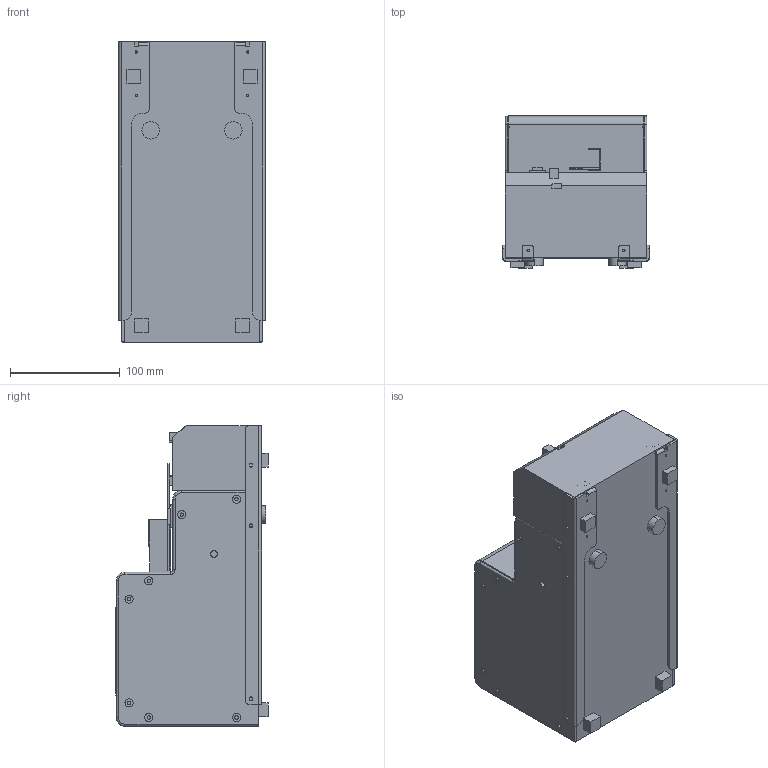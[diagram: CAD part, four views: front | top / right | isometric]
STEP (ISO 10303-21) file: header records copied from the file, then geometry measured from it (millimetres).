
FILE_DESCRIPTION (( 'STEP AP203' ), '1' );
FILE_NAME ('HS-RB.STEP', '2025-10-30T08:06:28', ( '' ), ( '' ), 'SwSTEP 2.0', 'SolidWorks 2021', '' );
FILE_SCHEMA (( 'CONFIG_CONTROL_DESIGN' ));
Length unit declared in the file: millimetre
Products named in the file (1): HS-RB
Bounding box: 133.4 x 138.8 x 274 mm (x, y, z)
Volume: 3720453.2 mm3; surface area: 302138.1 mm2
Topology: 10 solids, 10 shells, 755 faces, 1944 edges, 1275 vertices
Faces by surface type: plane 436, cylinder 273, bspline 28, cone 8, torus 8, sphere 2
Entity records: 24523 total; most frequent: CARTESIAN_POINT 5609, DIRECTION 3900, ORIENTED_EDGE 3888, EDGE_CURVE 1944, LINE 1312, VECTOR 1312, AXIS2_PLACEMENT_3D 1294, VERTEX_POINT 1275
